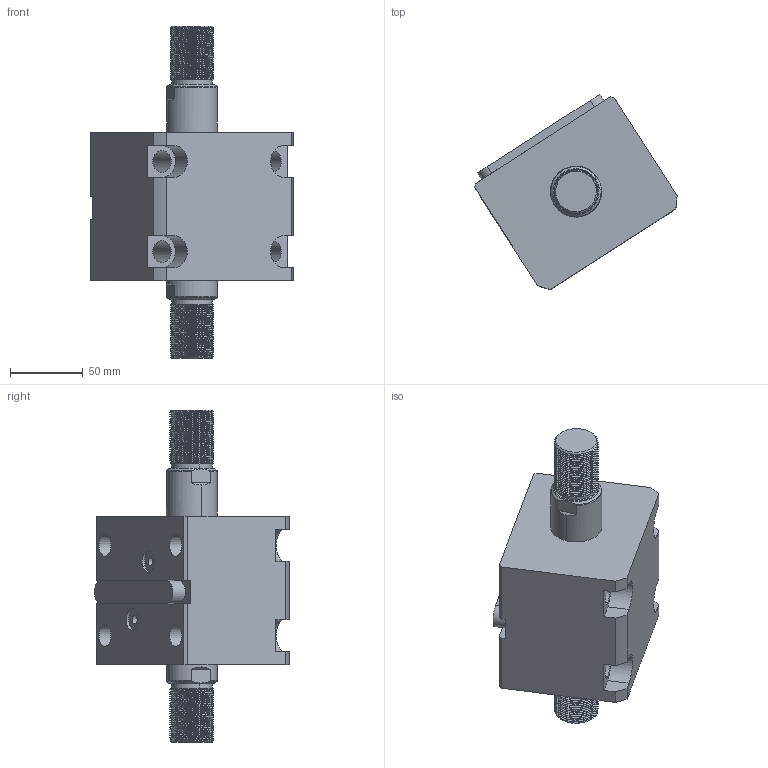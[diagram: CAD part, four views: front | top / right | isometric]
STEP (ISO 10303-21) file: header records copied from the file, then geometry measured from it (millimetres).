
FILE_DESCRIPTION (( 'STEP AP214' ), '1' );
FILE_NAME ('chtb-lwm63x20w_asm.STEP', '2018-05-22T01:27:06', ( 'Windows' ), ( 'Microsoft' ), 'SwSTEP 2.0', 'SolidWorks 2015', '' );
FILE_SCHEMA (( 'AUTOMOTIVE_DESIGN' ));
Length unit declared in the file: millimetre
Products named in the file (5): CHTB-SW63X20WHSG; CHTB-LWM63X20NBT; CHTB-LA63PJ; CHTB-63QG; chtb-lwm63x20w_asm
Assembly tree (4 placements, depth 2):
  chtb-lwm63x20w_asm
    CHTB-63QG
    CHTB-LA63PJ
    CHTB-LWM63X20NBT
    CHTB-SW63X20WHSG
Bounding box: 138.9 x 134.18 x 228 mm (x, y, z)
Volume: 1013388.7 mm3; surface area: 155832.6 mm2
Topology: 4 solids, 4 shells, 298 faces, 869 edges, 587 vertices
Faces by surface type: cylinder 203, plane 55, bspline 16, cone 12, torus 12
Entity records: 27660 total; most frequent: CARTESIAN_POINT 20506, ORIENTED_EDGE 1730, DIRECTION 1186, EDGE_CURVE 865, VERTEX_POINT 587, AXIS2_PLACEMENT_3D 440, EDGE_LOOP 326, LINE 306
